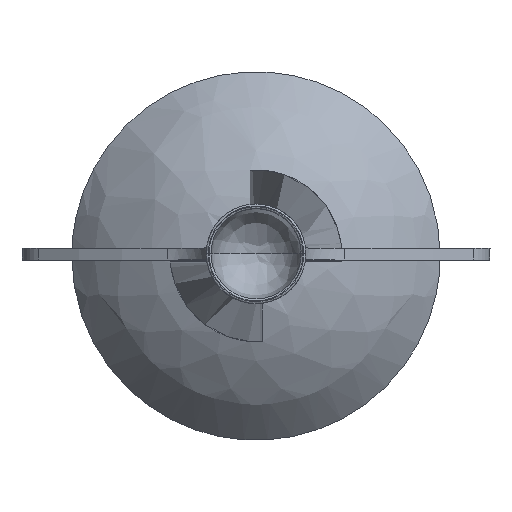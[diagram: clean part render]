
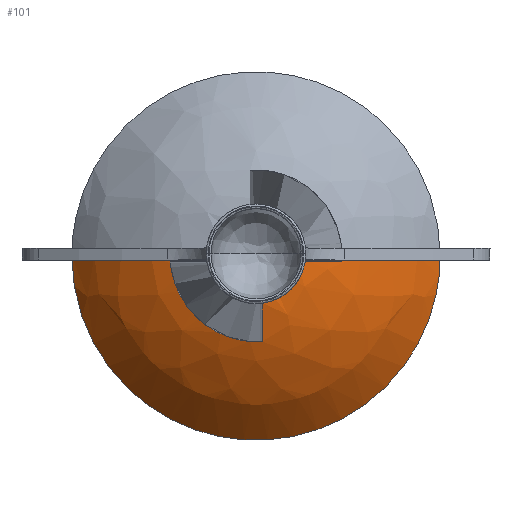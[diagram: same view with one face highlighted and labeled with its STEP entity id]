
A CAD part, top view. The second image highlights one B-rep face of the part: STEP entity #101.
In plain terms, the highlighted free-form (B-spline) face has degree [2, 2] with [3, 5] control points.
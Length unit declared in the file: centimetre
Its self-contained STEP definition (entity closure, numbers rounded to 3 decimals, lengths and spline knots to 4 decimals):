
#15=(
BOUNDED_SURFACE()
B_SPLINE_SURFACE(2,2,((#1342,#1343,#1344,#1345,#1346),(#1347,#1348,#1349,
#1350,#1351),(#1352,#1353,#1354,#1355,#1356)),.UNSPECIFIED.,.F.,.F.,.F.)
B_SPLINE_SURFACE_WITH_KNOTS((3,3),(3,2,3),(0.,286.8735),
(740.,1110.,1480.),.UNSPECIFIED.)
GEOMETRIC_REPRESENTATION_ITEM()
RATIONAL_B_SPLINE_SURFACE(((1.,0.707,1.,
0.707,1.),(0.905,0.64,
0.905,0.64,0.905),(1.,0.707,
1.,0.707,1.)))
REPRESENTATION_ITEM($)
SURFACE()
);
#35=(
BOUNDED_CURVE()
B_SPLINE_CURVE(2,(#1289,#1290,#1291),.UNSPECIFIED.,.F.,.F.)
B_SPLINE_CURVE_WITH_KNOTS((3,3),(0.4175,286.8735),.UNSPECIFIED.)
CURVE()
GEOMETRIC_REPRESENTATION_ITEM()
RATIONAL_B_SPLINE_CURVE((1.,0.905,1.))
REPRESENTATION_ITEM($)
);
#36=(
BOUNDED_CURVE()
B_SPLINE_CURVE(2,(#1292,#1293,#1294,#1295,#1296),.UNSPECIFIED.,.F.,.F.)
B_SPLINE_CURVE_WITH_KNOTS((3,2,3),(0.,290.5973,581.1946),
.UNSPECIFIED.)
CURVE()
GEOMETRIC_REPRESENTATION_ITEM()
RATIONAL_B_SPLINE_CURVE((1.,0.707,1.,0.707,1.))
REPRESENTATION_ITEM($)
);
#38=(
BOUNDED_CURVE()
B_SPLINE_CURVE(2,(#1318,#1319,#1320),.UNSPECIFIED.,.F.,.F.)
B_SPLINE_CURVE_WITH_KNOTS((3,3),(0.,286.8735),
.UNSPECIFIED.)
CURVE()
GEOMETRIC_REPRESENTATION_ITEM()
RATIONAL_B_SPLINE_CURVE((1.,0.905,1.))
REPRESENTATION_ITEM($)
);
#101=ADVANCED_FACE($,(#148),#15,.T.);
#148=FACE_OUTER_BOUND($,#195,.T.);
#195=EDGE_LOOP($,(#286,#287,#288,#289,#290,#291));
#286=ORIENTED_EDGE($,*,*,#477,.T.);
#287=ORIENTED_EDGE($,*,*,#467,.T.);
#288=ORIENTED_EDGE($,*,*,#466,.F.);
#289=ORIENTED_EDGE($,*,*,#464,.F.);
#290=ORIENTED_EDGE($,*,*,#465,.F.);
#291=ORIENTED_EDGE($,*,*,#460,.F.);
#460=EDGE_CURVE($,#565,#566,#664,.T.);
#464=EDGE_CURVE($,#570,#569,#668,.T.);
#465=EDGE_CURVE($,#566,#570,#669,.T.);
#466=EDGE_CURVE($,#569,#564,#35,.T.);
#467=EDGE_CURVE($,#571,#564,#36,.T.);
#477=EDGE_CURVE($,#565,#571,#38,.T.);
#564=VERTEX_POINT($,#1357);
#565=VERTEX_POINT($,#1358);
#566=VERTEX_POINT($,#1359);
#569=VERTEX_POINT($,#1362);
#570=VERTEX_POINT($,#1363);
#571=VERTEX_POINT($,#1364);
#664=B_SPLINE_CURVE_WITH_KNOTS($,3,(#1237,#1238,#1239,#1240,#1241,#1242,
#1243,#1244,#1245,#1246,#1247,#1248),.UNSPECIFIED.,.F.,.F.,(4,2,2,2,2,4),
(88.0311,132.1395,143.171,154.1977,165.7311,
176.0891),.UNSPECIFIED.);
#668=B_SPLINE_CURVE_WITH_KNOTS($,3,(#1273,#1274,#1275,#1276,#1277,#1278,
#1279,#1280,#1281,#1282,#1283,#1284),.UNSPECIFIED.,.F.,.F.,(4,2,2,2,2,4),
(-88.0574,-77.6929,-66.1849,-55.1358,
-44.1129,0.),.UNSPECIFIED.);
#669=B_SPLINE_CURVE_WITH_KNOTS($,3,(#1285,#1286,#1287,#1288),.UNSPECIFIED.,
.F.,.F.,(4,4),(-12.0016,0.),.UNSPECIFIED.);
#1237=CARTESIAN_POINT($,(22.5912,20.2957,8.9927));
#1238=CARTESIAN_POINT($,(22.5912,20.1409,8.9927));
#1239=CARTESIAN_POINT($,(22.5899,20.0257,8.9953));
#1240=CARTESIAN_POINT($,(22.5938,19.4719,8.9786));
#1241=CARTESIAN_POINT($,(22.5906,19.3299,8.9739));
#1242=CARTESIAN_POINT($,(22.5919,18.8893,8.9516));
#1243=CARTESIAN_POINT($,(22.5904,18.5828,8.9379));
#1244=CARTESIAN_POINT($,(22.5914,17.361,8.8172));
#1245=CARTESIAN_POINT($,(22.5904,16.4697,8.7151));
#1246=CARTESIAN_POINT($,(22.5883,14.0784,8.1851));
#1247=CARTESIAN_POINT($,(22.5876,12.7684,7.7847));
#1248=CARTESIAN_POINT($,(22.5863,11.6944,7.3624));
#1273=CARTESIAN_POINT($,(23.7863,11.6944,7.3619));
#1274=CARTESIAN_POINT($,(23.7876,12.7657,7.7831));
#1275=CARTESIAN_POINT($,(23.7892,14.0605,8.1791));
#1276=CARTESIAN_POINT($,(23.7902,16.4296,8.707));
#1277=CARTESIAN_POINT($,(23.7896,17.3167,8.8107));
#1278=CARTESIAN_POINT($,(23.7917,18.5224,8.9325));
#1279=CARTESIAN_POINT($,(23.7901,18.8432,8.9482));
#1280=CARTESIAN_POINT($,(23.7914,19.2941,8.9717));
#1281=CARTESIAN_POINT($,(23.7888,19.4397,8.9767));
#1282=CARTESIAN_POINT($,(23.7908,20.0147,8.9948));
#1283=CARTESIAN_POINT($,(23.7912,20.1343,8.992));
#1284=CARTESIAN_POINT($,(23.7912,20.2957,8.992));
#1285=CARTESIAN_POINT($,(22.5863,11.6944,7.3624));
#1286=CARTESIAN_POINT($,(22.9865,11.6944,7.3732));
#1287=CARTESIAN_POINT($,(23.3862,11.6944,7.373));
#1288=CARTESIAN_POINT($,(23.7863,11.6944,7.3619));
#1289=CARTESIAN_POINT($,(23.7912,20.2957,8.992));
#1290=CARTESIAN_POINT($,(34.8494,20.2957,8.7032));
#1291=CARTESIAN_POINT($,(41.6774,20.2957,0.));
#1292=CARTESIAN_POINT($,(4.6774,20.2957,0.));
#1293=CARTESIAN_POINT($,(4.6774,1.7957,0.));
#1294=CARTESIAN_POINT($,(23.1774,1.7957,0.));
#1295=CARTESIAN_POINT($,(41.6774,1.7957,0.));
#1296=CARTESIAN_POINT($,(41.6774,20.2957,0.));
#1318=CARTESIAN_POINT($,(22.5928,20.2957,8.9927));
#1319=CARTESIAN_POINT($,(11.5164,20.2957,8.7173));
#1320=CARTESIAN_POINT($,(4.6774,20.2957,0.));
#1342=CARTESIAN_POINT($,(22.5928,20.2957,8.9927));
#1343=CARTESIAN_POINT($,(22.5928,19.7111,8.9927));
#1344=CARTESIAN_POINT($,(23.1774,19.7111,8.9927));
#1345=CARTESIAN_POINT($,(23.762,19.7111,8.9927));
#1346=CARTESIAN_POINT($,(23.762,20.2957,8.9927));
#1347=CARTESIAN_POINT($,(11.5164,20.2957,8.7173));
#1348=CARTESIAN_POINT($,(11.5164,8.6347,8.7173));
#1349=CARTESIAN_POINT($,(23.1774,8.6347,8.7173));
#1350=CARTESIAN_POINT($,(34.8384,8.6347,8.7173));
#1351=CARTESIAN_POINT($,(34.8384,20.2957,8.7173));
#1352=CARTESIAN_POINT($,(4.6774,20.2957,0.));
#1353=CARTESIAN_POINT($,(4.6774,1.7957,0.));
#1354=CARTESIAN_POINT($,(23.1774,1.7957,0.));
#1355=CARTESIAN_POINT($,(41.6774,1.7957,0.));
#1356=CARTESIAN_POINT($,(41.6774,20.2957,0.));
#1357=CARTESIAN_POINT($,(41.6774,20.2957,0.));
#1358=CARTESIAN_POINT($,(22.5912,20.2957,8.9927));
#1359=CARTESIAN_POINT($,(22.5863,11.6944,7.3624));
#1362=CARTESIAN_POINT($,(23.7912,20.2957,8.992));
#1363=CARTESIAN_POINT($,(23.7863,11.6944,7.3619));
#1364=CARTESIAN_POINT($,(4.6774,20.2957,0.));
